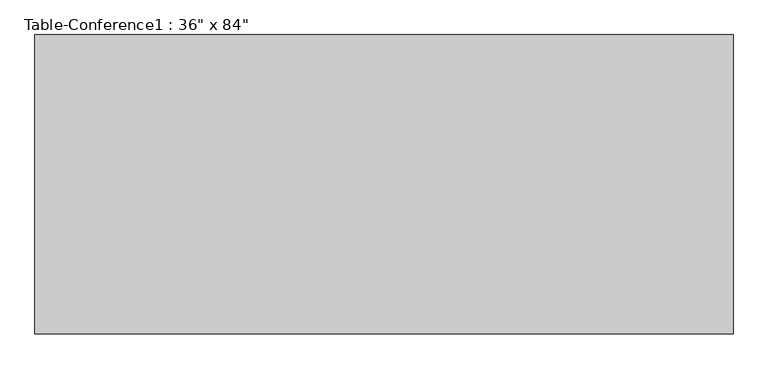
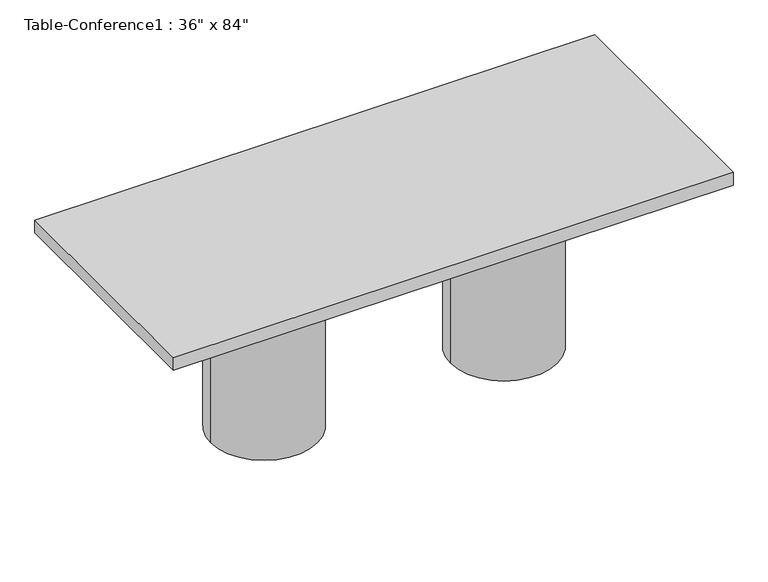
"""IFC4 building model written with IfcOpenShell, lengths in millimetres: furniture geometry."""

from ifc_helpers import new_model, si_unit, point, frame, frame_2d, origin, origin_with_axes, place, context, project, spatial, polyline, circle_curve, trimmed, segment, composite_curve, outline, extrude, source, transform, mapped, element, save


def furniture_8f69458c(model_context):
    return source(origin(), model_context, "Body", "SweptSolid", [
        extrude(outline(composite_curve([segment(trimmed(circle_curve(frame_2d((-457.2, 0.0)), 203.2), [point((-660.4, 0.0))], [point((-254.0, 0.0))], False, "CARTESIAN"), True, "CONTINUOUS"), segment(trimmed(circle_curve(frame_2d((-457.2, 0.0)), 203.2), [point((-254.0, 0.0))], [point((-660.4, 0.0))], False, "CARTESIAN"), True, "CONTINUOUS")], self_intersect=False)), origin_with_axes(), (0.0, 0.0, 1.0), 711.2),
        extrude(outline(composite_curve([segment(trimmed(circle_curve(frame_2d((457.2, 0.0)), 203.2), [point((254.0, 0.0))], [point((660.4, 0.0))], False, "CARTESIAN"), True, "CONTINUOUS"), segment(trimmed(circle_curve(frame_2d((457.2, 0.0)), 203.2), [point((660.4, 0.0))], [point((254.0, 0.0))], False, "CARTESIAN"), True, "CONTINUOUS")], self_intersect=False)), origin_with_axes(), (0.0, 0.0, 1.0), 711.2),
        extrude(outline(polyline([(1066.8, -457.2), (-1066.8, -457.2), (-1066.8, 457.2), (1066.8, 457.2), (1066.8, -457.2)])), frame((0.0, 0.0, 711.2), z_axis=(0.0, 0.0, 1.0), x_axis=(1.0, 0.0, 0.0)), (0.0, 0.0, 1.0), 50.8),
    ])


if __name__ == "__main__":
    model = new_model("IFC4")
    model_context = context("Model", 3, world=origin())
    ifc_project = project(units=[si_unit("LENGTHUNIT", "METRE", prefix="MILLI")], contexts=[model_context])
    site = spatial("IfcSite", under=ifc_project)
    building = spatial("IfcBuilding", under=site)
    placement = place(None, origin())
    furniture_shape = furniture_8f69458c(model_context)
    element("IfcFurniture", 1, ObjectType="Table-Conference1 : 36\" x 84\"", at=placement, inside=building, context=model_context, shape_type="MappedRepresentation", body=[
        mapped(furniture_shape, transform((0.0, 0.0, 0.0), x_axis=(1.0, 0.0, 0.0), y_axis=(0.0, 1.0, 0.0), z_axis=(0.0, 0.0, 1.0))),
    ])
    save(model, "model.ifc")
